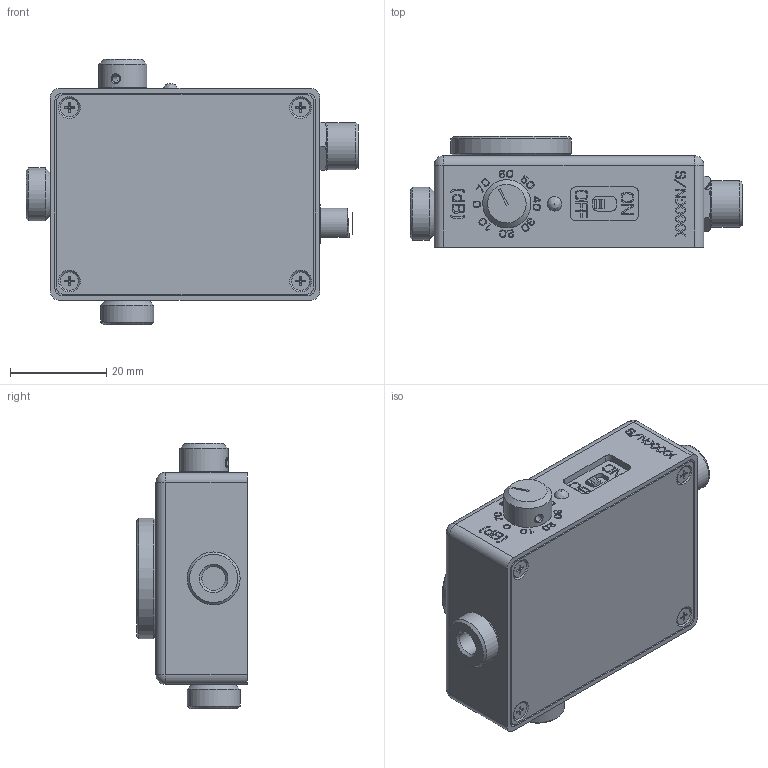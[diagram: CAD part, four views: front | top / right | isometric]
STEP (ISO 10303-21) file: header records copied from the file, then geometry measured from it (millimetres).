
FILE_DESCRIPTION(/* description */ (''),/* implementation_level */ '2;1');
FILE_NAME(/* name */ 'Y:\IvDoronin\- Фотоприемники -\- Модели -\2. Фотоприемники с усилителем\ФРКУ1-18.001 МС Фотоприемник ODA-1B SG.stp',/* time_stamp */ '2019-09-13T19:09:27+03:00',/* author */ ('svlad'),/* organization */ (''),/* preprocessor_version */ 'ST-DEVELOPER v17',/* originating_system */ 'Autodesk Inventor 2019',/* authorisation */ '');
FILE_SCHEMA (('AUTOMOTIVE_DESIGN { 1 0 10303 214 3 1 1 }'));
Products named in the file (1): ФРКУ1-18.001 МС Фотоприемник 
ODA-1B SG
Bounding box: 68.9 x 23 x 55 mm (x, y, z)
Volume: 48755.6 mm3; surface area: 12135.8 mm2
Topology: 1 solids, 10 shells, 1603 faces, 4269 edges, 2849 vertices
Faces by surface type: plane 992, bspline 401, cylinder 109, cone 73, torus 22, sphere 6
Full cylindrical faces by diameter (mm): 0.8 x4, 0.975 x1, 1.567 x5, 1.6 x1, 1.791 x1, 3.8 x4, 4.5 x1, 4.7 x1, 4.917 x2, 5 x1, 7 x1, 7.4 x1, 7.5 x1, 8 x1, 8.1 x2, 9.7 x1, 10 x1, 11 x2, 12.5 x1, 12.918 x1, 15.8 x1, 16 x1, 20 x2, 20.2 x1, 25 x1
Entity records: 60436 total; most frequent: CARTESIAN_POINT 21306, ORIENTED_EDGE 8528, DIRECTION 6248, EDGE_CURVE 4265, VERTEX_POINT 2849, LINE 2714, VECTOR 2714, EDGE_LOOP 1780
